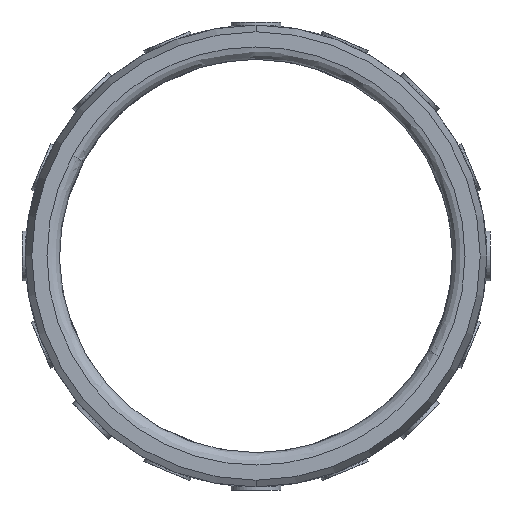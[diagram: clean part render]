
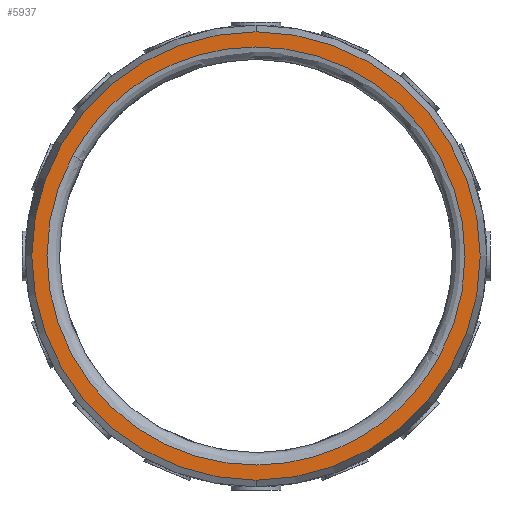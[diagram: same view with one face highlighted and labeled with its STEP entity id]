
A CAD part, front view. The second image highlights one B-rep face of the part: STEP entity #5937.
In plain terms, the highlighted planar face has unit normal (0, -1, 0).
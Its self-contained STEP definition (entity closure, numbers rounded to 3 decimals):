
#932 = CARTESIAN_POINT ( 'NONE',  ( 0., 0., 35.928 ) ) ;
#935 = CARTESIAN_POINT ( 'NONE',  ( 0., 0., -35.928 ) ) ;
#2142 = EDGE_CURVE ( 'NONE', #9608, #9597, #9756, .T. ) ;
#2227 = EDGE_CURVE ( 'NONE', #9597, #9608, #9757, .T. ) ;
#2238 = EDGE_CURVE ( 'NONE', #9952, #9930, #3682, .T. ) ;
#2345 = EDGE_CURVE ( 'NONE', #9930, #9952, #3627, .T. ) ;
#3627 = CIRCLE ( 'NONE', #3628, 35.928 ) ;
#3628 = AXIS2_PLACEMENT_3D ( 'NONE', #5757, #5756, #5755 ) ;
#3666 = AXIS2_PLACEMENT_3D ( 'NONE', #3840, #3841, #3842 ) ;
#3682 = CIRCLE ( 'NONE', #3683, 35.928 ) ;
#3683 = AXIS2_PLACEMENT_3D ( 'NONE', #10567, #10568, #10569 ) ;
#3837 = FACE_BOUND ( 'NONE', #10477, .T. ) ;
#3838 = FACE_OUTER_BOUND ( 'NONE', #10339, .T. ) ;
#3839 = PLANE ( 'NONE',  #3666 ) ;
#3840 = CARTESIAN_POINT ( 'NONE',  ( 33.5, 0., 0. ) ) ;
#3841 = DIRECTION ( 'NONE',  ( 0., 1., 0. ) ) ;
#3842 = DIRECTION ( 'NONE',  ( 0., 0., 1. ) ) ;
#4346 = CARTESIAN_POINT ( 'NONE',  ( -29.399, 0., 16.061 ) ) ;
#4355 = CARTESIAN_POINT ( 'NONE',  ( 29.399, 0., -16.061 ) ) ;
#5038 = ORIENTED_EDGE ( 'NONE', *, *, #2238, .F. ) ;
#5223 = ORIENTED_EDGE ( 'NONE', *, *, #2227, .F. ) ;
#5755 = DIRECTION ( 'NONE',  ( 0., 0., 1. ) ) ;
#5756 = DIRECTION ( 'NONE',  ( 0., 1., 0. ) ) ;
#5757 = CARTESIAN_POINT ( 'NONE',  ( 0., 0., 0. ) ) ;
#5937 = ADVANCED_FACE ( 'NONE', ( #3837, #3838 ), #3839, .F. ) ;
#7393 = CARTESIAN_POINT ( 'NONE',  ( 2.722, 0., 74.859 ) ) ;
#7409 = CARTESIAN_POINT ( 'NONE',  ( 61.521, 0., 42.737 ) ) ;
#7413 = CARTESIAN_POINT ( 'NONE',  ( 29.399, 0., -16.061 ) ) ;
#7480 = CARTESIAN_POINT ( 'NONE',  ( -29.399, 0., 16.061 ) ) ;
#9597 = VERTEX_POINT ( 'NONE', #4346 ) ;
#9608 = VERTEX_POINT ( 'NONE', #4355 ) ;
#9756 =( BOUNDED_CURVE ( )  B_SPLINE_CURVE ( 3, ( #7413, #7409, #7393, #7480 ),
 .UNSPECIFIED., .F., .F. ) 
 B_SPLINE_CURVE_WITH_KNOTS ( ( 4, 4 ),
 ( 0., 1. ),
 .UNSPECIFIED. ) 
 CURVE ( )  GEOMETRIC_REPRESENTATION_ITEM ( )  RATIONAL_B_SPLINE_CURVE ( ( 1., 0.333, 0.333, 1. ) ) 
 REPRESENTATION_ITEM ( '' )  );
#9757 =( BOUNDED_CURVE ( )  B_SPLINE_CURVE ( 3, ( #10721, #10707, #10722, #10723 ),
 .UNSPECIFIED., .F., .F. ) 
 B_SPLINE_CURVE_WITH_KNOTS ( ( 4, 4 ),
 ( 0., 1. ),
 .UNSPECIFIED. ) 
 CURVE ( )  GEOMETRIC_REPRESENTATION_ITEM ( )  RATIONAL_B_SPLINE_CURVE ( ( 1., 0.333, 0.333, 1. ) ) 
 REPRESENTATION_ITEM ( '' )  );
#9864 = ORIENTED_EDGE ( 'NONE', *, *, #2345, .F. ) ;
#9913 = ORIENTED_EDGE ( 'NONE', *, *, #2142, .F. ) ;
#9930 = VERTEX_POINT ( 'NONE', #932 ) ;
#9952 = VERTEX_POINT ( 'NONE', #935 ) ;
#10339 = EDGE_LOOP ( 'NONE', ( #9864, #5038 ) ) ;
#10477 = EDGE_LOOP ( 'NONE', ( #5223, #9913 ) ) ;
#10567 = CARTESIAN_POINT ( 'NONE',  ( 0., 0., 0. ) ) ;
#10568 = DIRECTION ( 'NONE',  ( 0., 1., 0. ) ) ;
#10569 = DIRECTION ( 'NONE',  ( 0., 0., 1. ) ) ;
#10707 = CARTESIAN_POINT ( 'NONE',  ( -61.521, 0., -42.737 ) ) ;
#10721 = CARTESIAN_POINT ( 'NONE',  ( -29.399, 0., 16.061 ) ) ;
#10722 = CARTESIAN_POINT ( 'NONE',  ( -2.722, 0., -74.859 ) ) ;
#10723 = CARTESIAN_POINT ( 'NONE',  ( 29.399, 0., -16.061 ) ) ;
